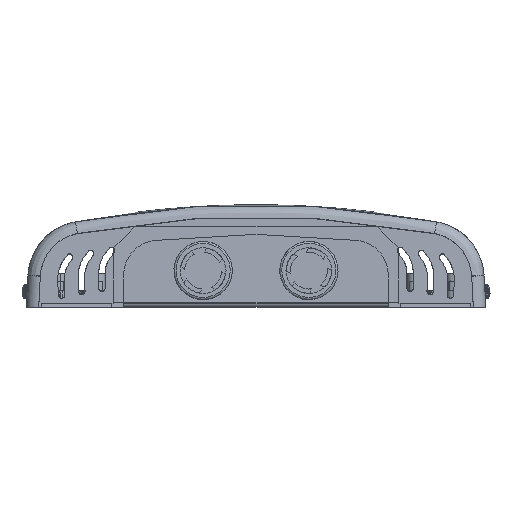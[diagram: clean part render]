
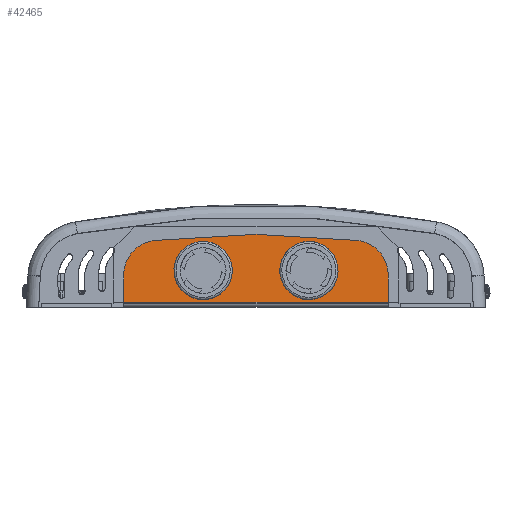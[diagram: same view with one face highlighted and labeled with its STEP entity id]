
A CAD part, front view. The second image highlights one B-rep face of the part: STEP entity #42465.
In plain terms, the highlighted planar face has unit normal (0, -0.999, 0.052).
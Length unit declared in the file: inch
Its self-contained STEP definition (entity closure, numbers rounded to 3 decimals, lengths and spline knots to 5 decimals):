
#410 = VECTOR ( 'NONE', #13145, 39.37008 ) ;
#426 = LINE ( 'NONE', #6790, #19010 ) ;
#1122 = ORIENTED_EDGE ( 'NONE', *, *, #32599, .F. ) ;
#1612 = EDGE_CURVE ( 'NONE', #23333, #36613, #21832, .T. ) ;
#1824 = EDGE_CURVE ( 'NONE', #7778, #2270, #426, .T. ) ;
#1889 = LINE ( 'NONE', #6970, #31786 ) ;
#2270 = VERTEX_POINT ( 'NONE', #5799 ) ;
#2427 = DIRECTION ( 'NONE',  ( 0., 0.052, 0.999 ) ) ;
#2465 = EDGE_LOOP ( 'NONE', ( #1122, #37138, #24019, #26298, #16033, #41757 ) ) ;
#2640 = EDGE_LOOP ( 'NONE', ( #28447, #44524 ) ) ;
#3023 = DIRECTION ( 'NONE',  ( 0., -0.052, -0.999 ) ) ;
#3190 = CARTESIAN_POINT ( 'NONE',  ( 1., -15.00725, 0.65297 ) ) ;
#4092 = DIRECTION ( 'NONE',  ( 0., -0.052, -0.999 ) ) ;
#5161 = VECTOR ( 'NONE', #2427, 39.37008 ) ;
#5746 = CARTESIAN_POINT ( 'NONE',  ( -2.6875, -15.00127, 0.76705 ) ) ;
#5799 = CARTESIAN_POINT ( 'NONE',  ( 2.6875, -14.98452, 1.08656 ) ) ;
#5852 = CARTESIAN_POINT ( 'NONE',  ( -1., -15.00725, 0.65297 ) ) ;
#6790 = CARTESIAN_POINT ( 'NONE',  ( 2.2938, -14.96392, 1.47972 ) ) ;
#6970 = CARTESIAN_POINT ( 'NONE',  ( 0., -15.03862, 0.05438 ) ) ;
#7443 = DIRECTION ( 'NONE',  ( 0., 0.052, 0.999 ) ) ;
#7557 = EDGE_CURVE ( 'NONE', #2270, #14328, #20390, .T. ) ;
#7778 = VERTEX_POINT ( 'NONE', #23936 ) ;
#7945 = CARTESIAN_POINT ( 'NONE',  ( 0., -14.96392, 1.47972 ) ) ;
#8686 = AXIS2_PLACEMENT_3D ( 'NONE', #11349, #25702, #4092 ) ;
#11349 = CARTESIAN_POINT ( 'NONE',  ( 1., -15.00725, 0.65297 ) ) ;
#12179 = DIRECTION ( 'NONE',  ( 1., 0., 0. ) ) ;
#13145 = DIRECTION ( 'NONE',  ( 0.707, 0.037, 0.706 ) ) ;
#13243 = EDGE_CURVE ( 'NONE', #36613, #23333, #30786, .T. ) ;
#13338 = LINE ( 'NONE', #7945, #25220 ) ;
#13592 = DIRECTION ( 'NONE',  ( 0., -0.999, 0.052 ) ) ;
#13669 = EDGE_CURVE ( 'NONE', #46019, #7778, #13338, .T. ) ;
#14126 = CARTESIAN_POINT ( 'NONE',  ( 1., -14.98458, 1.08545 ) ) ;
#14328 = VERTEX_POINT ( 'NONE', #23714 ) ;
#14686 = CARTESIAN_POINT ( 'NONE',  ( -2.2938, -14.96392, 1.47972 ) ) ;
#14740 = LINE ( 'NONE', #5746, #5161 ) ;
#16033 = ORIENTED_EDGE ( 'NONE', *, *, #1824, .F. ) ;
#16316 = EDGE_CURVE ( 'NONE', #18496, #14328, #1889, .T. ) ;
#16728 = LINE ( 'NONE', #33992, #410 ) ;
#17197 = CARTESIAN_POINT ( 'NONE',  ( -1., -15.02991, 0.22049 ) ) ;
#17843 = PLANE ( 'NONE',  #23392 ) ;
#18496 = VERTEX_POINT ( 'NONE', #26528 ) ;
#19010 = VECTOR ( 'NONE', #24923, 39.37008 ) ;
#19569 = FACE_OUTER_BOUND ( 'NONE', #2465, .T. ) ;
#20071 = EDGE_CURVE ( 'NONE', #18496, #21809, #14740, .T. ) ;
#20390 = LINE ( 'NONE', #35838, #43624 ) ;
#20977 = DIRECTION ( 'NONE',  ( 0., -0.052, -0.999 ) ) ;
#21139 = CIRCLE ( 'NONE', #8686, 0.43307 ) ;
#21809 = VERTEX_POINT ( 'NONE', #26229 ) ;
#21832 = CIRCLE ( 'NONE', #26403, 0.43307 ) ;
#23333 = VERTEX_POINT ( 'NONE', #17197 ) ;
#23370 = CARTESIAN_POINT ( 'NONE',  ( 1., -15.02991, 0.22049 ) ) ;
#23374 = EDGE_CURVE ( 'NONE', #28273, #31247, #36034, .T. ) ;
#23392 = AXIS2_PLACEMENT_3D ( 'NONE', #46761, #46431, #7443 ) ;
#23714 = CARTESIAN_POINT ( 'NONE',  ( 2.6875, -15.03862, 0.05438 ) ) ;
#23858 = DIRECTION ( 'NONE',  ( 0., -0.052, -0.999 ) ) ;
#23936 = CARTESIAN_POINT ( 'NONE',  ( 2.2938, -14.96392, 1.47972 ) ) ;
#24019 = ORIENTED_EDGE ( 'NONE', *, *, #16316, .T. ) ;
#24670 = FACE_BOUND ( 'NONE', #26153, .T. ) ;
#24923 = DIRECTION ( 'NONE',  ( 0.707, -0.037, -0.706 ) ) ;
#25220 = VECTOR ( 'NONE', #12179, 39.37008 ) ;
#25702 = DIRECTION ( 'NONE',  ( 0., -0.999, 0.052 ) ) ;
#26153 = EDGE_LOOP ( 'NONE', ( #45989, #35507 ) ) ;
#26229 = CARTESIAN_POINT ( 'NONE',  ( -2.6875, -14.98452, 1.08656 ) ) ;
#26298 = ORIENTED_EDGE ( 'NONE', *, *, #7557, .F. ) ;
#26403 = AXIS2_PLACEMENT_3D ( 'NONE', #5852, #30575, #31054 ) ;
#26528 = CARTESIAN_POINT ( 'NONE',  ( -2.6875, -15.03862, 0.05438 ) ) ;
#27783 = CARTESIAN_POINT ( 'NONE',  ( -1., -15.00725, 0.65297 ) ) ;
#28273 = VERTEX_POINT ( 'NONE', #23370 ) ;
#28447 = ORIENTED_EDGE ( 'NONE', *, *, #23374, .F. ) ;
#28544 = AXIS2_PLACEMENT_3D ( 'NONE', #27783, #13592, #23858 ) ;
#30575 = DIRECTION ( 'NONE',  ( 0., -0.999, 0.052 ) ) ;
#30786 = CIRCLE ( 'NONE', #28544, 0.43307 ) ;
#31054 = DIRECTION ( 'NONE',  ( 0., -0.052, -0.999 ) ) ;
#31160 = AXIS2_PLACEMENT_3D ( 'NONE', #3190, #32022, #20977 ) ;
#31247 = VERTEX_POINT ( 'NONE', #14126 ) ;
#31786 = VECTOR ( 'NONE', #43445, 39.37008 ) ;
#32022 = DIRECTION ( 'NONE',  ( 0., -0.999, 0.052 ) ) ;
#32599 = EDGE_CURVE ( 'NONE', #21809, #46019, #16728, .T. ) ;
#33992 = CARTESIAN_POINT ( 'NONE',  ( -2.6875, -14.98452, 1.08656 ) ) ;
#34737 = EDGE_CURVE ( 'NONE', #31247, #28273, #21139, .T. ) ;
#35507 = ORIENTED_EDGE ( 'NONE', *, *, #13243, .F. ) ;
#35838 = CARTESIAN_POINT ( 'NONE',  ( 2.6875, -15.00127, 0.76705 ) ) ;
#36034 = CIRCLE ( 'NONE', #31160, 0.43307 ) ;
#36613 = VERTEX_POINT ( 'NONE', #45008 ) ;
#37138 = ORIENTED_EDGE ( 'NONE', *, *, #20071, .F. ) ;
#41757 = ORIENTED_EDGE ( 'NONE', *, *, #13669, .F. ) ;
#42465 = ADVANCED_FACE ( 'NONE', ( #24670, #43903, #19569 ), #17843, .F. ) ;
#43445 = DIRECTION ( 'NONE',  ( 1., 0., 0. ) ) ;
#43624 = VECTOR ( 'NONE', #3023, 39.37008 ) ;
#43903 = FACE_BOUND ( 'NONE', #2640, .T. ) ;
#44524 = ORIENTED_EDGE ( 'NONE', *, *, #34737, .F. ) ;
#45008 = CARTESIAN_POINT ( 'NONE',  ( -1., -14.98458, 1.08545 ) ) ;
#45989 = ORIENTED_EDGE ( 'NONE', *, *, #1612, .F. ) ;
#46019 = VERTEX_POINT ( 'NONE', #14686 ) ;
#46431 = DIRECTION ( 'NONE',  ( 0., 0.999, -0.052 ) ) ;
#46761 = CARTESIAN_POINT ( 'NONE',  ( -2.6875, -15.03862, 0.05438 ) ) ;
